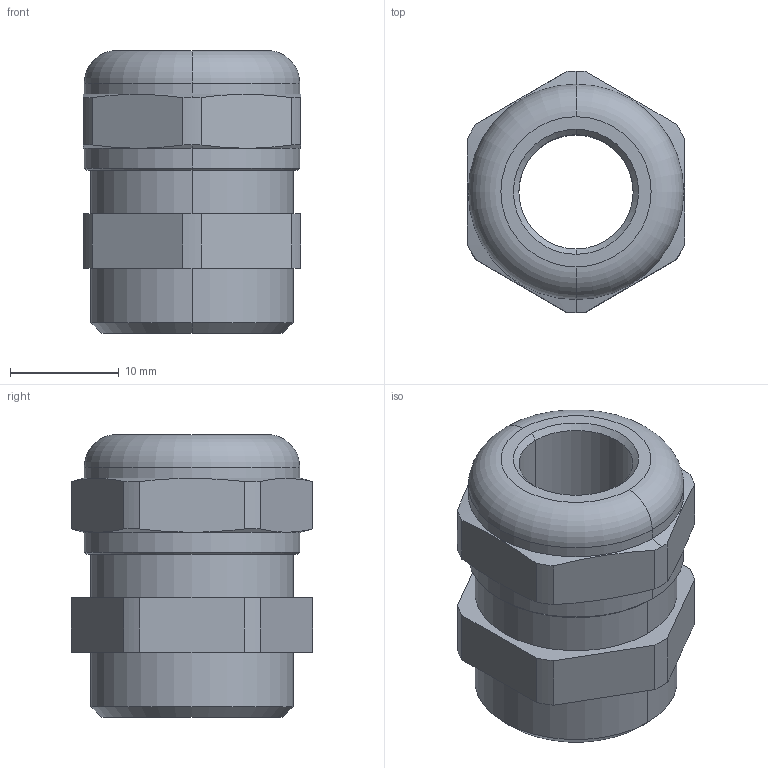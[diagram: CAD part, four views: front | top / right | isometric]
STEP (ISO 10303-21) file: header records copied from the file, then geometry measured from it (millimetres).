
FILE_DESCRIPTION (( 'STEP AP203' ), '1' );
FILE_NAME ('18110710.STEP', '2006-10-13T09:36:15', ( ' ' ), ( '' ), 'SwSTEP 2.0', 'SolidWorks 2005278', '' );
FILE_SCHEMA (( 'CONFIG_CONTROL_DESIGN' ));
Length unit declared in the file: millimetre
Products named in the file (1): 18110710
Bounding box: 20 x 22.2 x 26 mm (x, y, z)
Volume: 5601 mm3; surface area: 3001.8 mm2
Topology: 1 solids, 1 shells, 90 faces, 232 edges, 150 vertices
Faces by surface type: plane 54, cylinder 24, cone 10, torus 2
Entity records: 2841 total; most frequent: CARTESIAN_POINT 533, ORIENTED_EDGE 464, DIRECTION 462, EDGE_CURVE 232, VECTOR 160, LINE 160, AXIS2_PLACEMENT_3D 151, VERTEX_POINT 150
